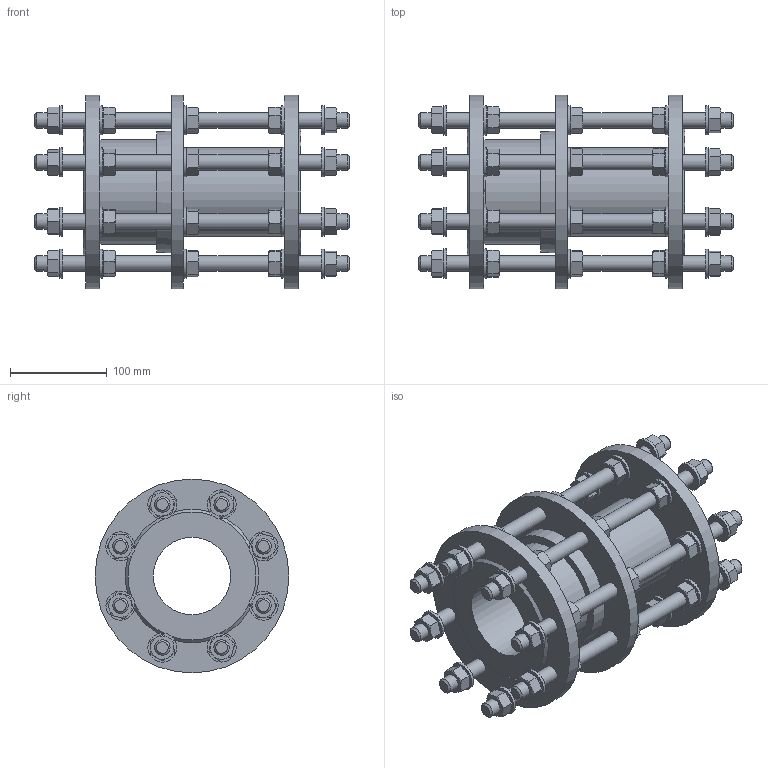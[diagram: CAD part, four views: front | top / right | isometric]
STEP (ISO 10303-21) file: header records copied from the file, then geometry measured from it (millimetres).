
FILE_DESCRIPTION (( 'STEP AP203' ), '1' );
FILE_NAME ('O_265_910_DN80_1XXXXX00_L=225_REV01.step', '2024-10-11T08:08:00', ( '' ), ( '' ), 'SwSTEP 2.0', 'SolidWorks 2022', '' );
FILE_SCHEMA (( 'CONFIG_CONTROL_DESIGN' ));
Length unit declared in the file: millimetre
Products named in the file (1): O_265_910_DN80_1XXXXX00_L=225_REV01
Bounding box: 325 x 200 x 200 mm (x, y, z)
Volume: 2329699 mm3; surface area: 434010.8 mm2
Topology: 1 solids, 1 shells, 1035 faces, 2265 edges, 1355 vertices
Faces by surface type: plane 640, cone 259, cylinder 136
Full cylindrical faces by diameter (mm): 16 x48, 24 x40, 30 x40, 80 x1, 92 x1, 108 x1, 200 x3
Entity records: 28494 total; most frequent: CARTESIAN_POINT 7241, DIRECTION 4367, ORIENTED_EDGE 4082, EDGE_CURVE 2041, AXIS2_PLACEMENT_3D 1770, EDGE_LOOP 1345, VERTEX_POINT 1284, FACE_OUTER_BOUND 1169
